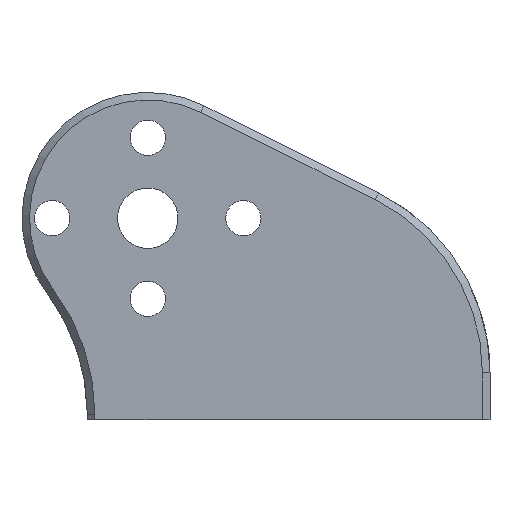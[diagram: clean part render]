
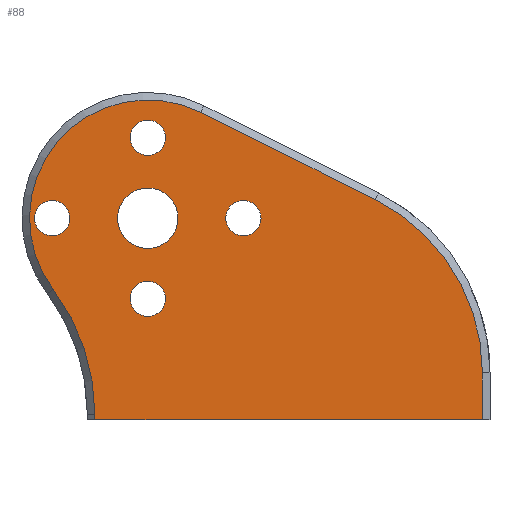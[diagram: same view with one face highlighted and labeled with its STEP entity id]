
A CAD part, front view. The second image highlights one B-rep face of the part: STEP entity #88.
In plain terms, the highlighted planar face has unit normal (0, -1, 0).
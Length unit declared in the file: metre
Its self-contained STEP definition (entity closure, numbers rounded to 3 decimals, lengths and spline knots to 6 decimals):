
#88 = ADVANCED_FACE( '', ( #201, #202, #203, #204, #205, #206 ), #207, .T. );
#201 = FACE_BOUND( '', #534, .T. );
#202 = FACE_BOUND( '', #535, .T. );
#203 = FACE_BOUND( '', #536, .T. );
#204 = FACE_BOUND( '', #537, .T. );
#205 = FACE_BOUND( '', #538, .T. );
#206 = FACE_OUTER_BOUND( '', #539, .T. );
#207 = PLANE( '', #540 );
#534 = EDGE_LOOP( '', ( #818 ) );
#535 = EDGE_LOOP( '', ( #819 ) );
#536 = EDGE_LOOP( '', ( #820 ) );
#537 = EDGE_LOOP( '', ( #821 ) );
#538 = EDGE_LOOP( '', ( #822 ) );
#539 = EDGE_LOOP( '', ( #823, #824, #825, #826, #827, #828, #829 ) );
#540 = AXIS2_PLACEMENT_3D( '', #830, #831, #832 );
#818 = ORIENTED_EDGE( '', *, *, #1021, .F. );
#819 = ORIENTED_EDGE( '', *, *, #1022, .F. );
#820 = ORIENTED_EDGE( '', *, *, #1023, .F. );
#821 = ORIENTED_EDGE( '', *, *, #1024, .F. );
#822 = ORIENTED_EDGE( '', *, *, #1025, .F. );
#823 = ORIENTED_EDGE( '', *, *, #1026, .T. );
#824 = ORIENTED_EDGE( '', *, *, #972, .T. );
#825 = ORIENTED_EDGE( '', *, *, #950, .F. );
#826 = ORIENTED_EDGE( '', *, *, #1027, .T. );
#827 = ORIENTED_EDGE( '', *, *, #983, .T. );
#828 = ORIENTED_EDGE( '', *, *, #1028, .T. );
#829 = ORIENTED_EDGE( '', *, *, #1029, .T. );
#830 = CARTESIAN_POINT( '', ( 0., -0.0185, 0.004 ) );
#831 = DIRECTION( '', ( 0., -1., 0. ) );
#832 = DIRECTION( '', ( 0., 0., -1. ) );
#950 = EDGE_CURVE( '', #1061, #1062, #1063, .T. );
#972 = EDGE_CURVE( '', #1096, #1062, #1100, .T. );
#983 = EDGE_CURVE( '', #1111, #1115, #1117, .T. );
#1021 = EDGE_CURVE( '', #1174, #1174, #1175, .T. );
#1022 = EDGE_CURVE( '', #1176, #1176, #1177, .T. );
#1023 = EDGE_CURVE( '', #1178, #1178, #1179, .T. );
#1024 = EDGE_CURVE( '', #1180, #1180, #1181, .T. );
#1025 = EDGE_CURVE( '', #1182, #1182, #1183, .T. );
#1026 = EDGE_CURVE( '', #1184, #1096, #1185, .F. );
#1027 = EDGE_CURVE( '', #1061, #1111, #1186, .T. );
#1028 = EDGE_CURVE( '', #1115, #1187, #1188, .T. );
#1029 = EDGE_CURVE( '', #1187, #1184, #1189, .T. );
#1061 = VERTEX_POINT( '', #1221 );
#1062 = VERTEX_POINT( '', #1222 );
#1063 = LINE( '', #1223, #1224 );
#1096 = VERTEX_POINT( '', #1285 );
#1100 = LINE( '', #1291, #1292 );
#1111 = VERTEX_POINT( '', #1333 );
#1115 = VERTEX_POINT( '', #1338 );
#1117 = CIRCLE( '', #1341, 0.01925 );
#1174 = VERTEX_POINT( '', #1487 );
#1175 = CIRCLE( '', #1488, 0.00175 );
#1176 = VERTEX_POINT( '', #1489 );
#1177 = CIRCLE( '', #1490, 0.00175 );
#1178 = VERTEX_POINT( '', #1491 );
#1179 = CIRCLE( '', #1492, 0.00175 );
#1180 = VERTEX_POINT( '', #1493 );
#1181 = CIRCLE( '', #1494, 0.003 );
#1182 = VERTEX_POINT( '', #1495 );
#1183 = CIRCLE( '', #1496, 0.00175 );
#1184 = VERTEX_POINT( '', #1497 );
#1185 = CIRCLE( '', #1498, 0.02075 );
#1186 = LINE( '', #1499, #1500 );
#1187 = VERTEX_POINT( '', #1501 );
#1188 = LINE( '', #1502, #1503 );
#1189 = CIRCLE( '', #1504, 0.01175 );
#1221 = CARTESIAN_POINT( '', ( 0.01925, -0.0185, 0. ) );
#1222 = CARTESIAN_POINT( '', ( -0.01925, -0.0185, 0. ) );
#1223 = CARTESIAN_POINT( '', ( 0., -0.0185, 0. ) );
#1224 = VECTOR( '', #1543, 1. );
#1285 = CARTESIAN_POINT( '', ( -0.01925, -0.0185, 0.0005 ) );
#1291 = CARTESIAN_POINT( '', ( -0.01925, -0.0185, 0. ) );
#1292 = VECTOR( '', #1567, 1. );
#1333 = CARTESIAN_POINT( '', ( 0.01925, -0.0185, 0.00463 ) );
#1338 = CARTESIAN_POINT( '', ( 0.008597, -0.0185, 0.021853 ) );
#1341 = AXIS2_PLACEMENT_3D( '', #1576, #1577, #1578 );
#1487 = CARTESIAN_POINT( '', ( -0.014, -0.0185, 0.01025 ) );
#1488 = AXIS2_PLACEMENT_3D( '', #1624, #1625, #1626 );
#1489 = CARTESIAN_POINT( '', ( -0.0045, -0.0185, 0.01825 ) );
#1490 = AXIS2_PLACEMENT_3D( '', #1627, #1628, #1629 );
#1491 = CARTESIAN_POINT( '', ( -0.014, -0.0185, 0.02625 ) );
#1492 = AXIS2_PLACEMENT_3D( '', #1630, #1631, #1632 );
#1493 = CARTESIAN_POINT( '', ( -0.014, -0.0185, 0.017 ) );
#1494 = AXIS2_PLACEMENT_3D( '', #1633, #1634, #1635 );
#1495 = CARTESIAN_POINT( '', ( -0.0235, -0.0185, 0.01825 ) );
#1496 = AXIS2_PLACEMENT_3D( '', #1636, #1637, #1638 );
#1497 = CARTESIAN_POINT( '', ( -0.0234, -0.0185, 0.01295 ) );
#1498 = AXIS2_PLACEMENT_3D( '', #1639, #1640, #1641 );
#1499 = CARTESIAN_POINT( '', ( 0.01925, -0.0185, 0.004 ) );
#1500 = VECTOR( '', #1642, 1. );
#1501 = CARTESIAN_POINT( '', ( -0.008753, -0.0185, 0.030513 ) );
#1502 = CARTESIAN_POINT( '', ( -0.008753, -0.0185, 0.030513 ) );
#1503 = VECTOR( '', #1643, 1. );
#1504 = AXIS2_PLACEMENT_3D( '', #1644, #1645, #1646 );
#1543 = DIRECTION( '', ( -1., 0., 0. ) );
#1567 = DIRECTION( '', ( 0., 0., -1. ) );
#1576 = CARTESIAN_POINT( '', ( 0., -0.0185, 0.00463 ) );
#1577 = DIRECTION( '', ( 0., -1., 0. ) );
#1578 = DIRECTION( '', ( 0., 0., -1. ) );
#1624 = CARTESIAN_POINT( '', ( -0.014, -0.0185, 0.012 ) );
#1625 = DIRECTION( '', ( 0., -1., 0. ) );
#1626 = DIRECTION( '', ( 0., 0., -1. ) );
#1627 = CARTESIAN_POINT( '', ( -0.0045, -0.0185, 0.02 ) );
#1628 = DIRECTION( '', ( 0., -1., 0. ) );
#1629 = DIRECTION( '', ( 0., 0., -1. ) );
#1630 = CARTESIAN_POINT( '', ( -0.014, -0.0185, 0.028 ) );
#1631 = DIRECTION( '', ( 0., -1., 0. ) );
#1632 = DIRECTION( '', ( 0., 0., -1. ) );
#1633 = CARTESIAN_POINT( '', ( -0.014, -0.0185, 0.02 ) );
#1634 = DIRECTION( '', ( 0., -1., 0. ) );
#1635 = DIRECTION( '', ( 0., 0., -1. ) );
#1636 = CARTESIAN_POINT( '', ( -0.0235, -0.0185, 0.02 ) );
#1637 = DIRECTION( '', ( 0., -1., 0. ) );
#1638 = DIRECTION( '', ( 0., 0., -1. ) );
#1639 = CARTESIAN_POINT( '', ( -0.04, -0.0185, 0.0005 ) );
#1640 = DIRECTION( '', ( 0., -1., 0. ) );
#1641 = DIRECTION( '', ( 0., 0., -1. ) );
#1642 = DIRECTION( '', ( 0., 0., 1. ) );
#1643 = DIRECTION( '', ( -0.895, 0., 0.447 ) );
#1644 = CARTESIAN_POINT( '', ( -0.014, -0.0185, 0.02 ) );
#1645 = DIRECTION( '', ( 0., -1., 0. ) );
#1646 = DIRECTION( '', ( 0., 0., -1. ) );
